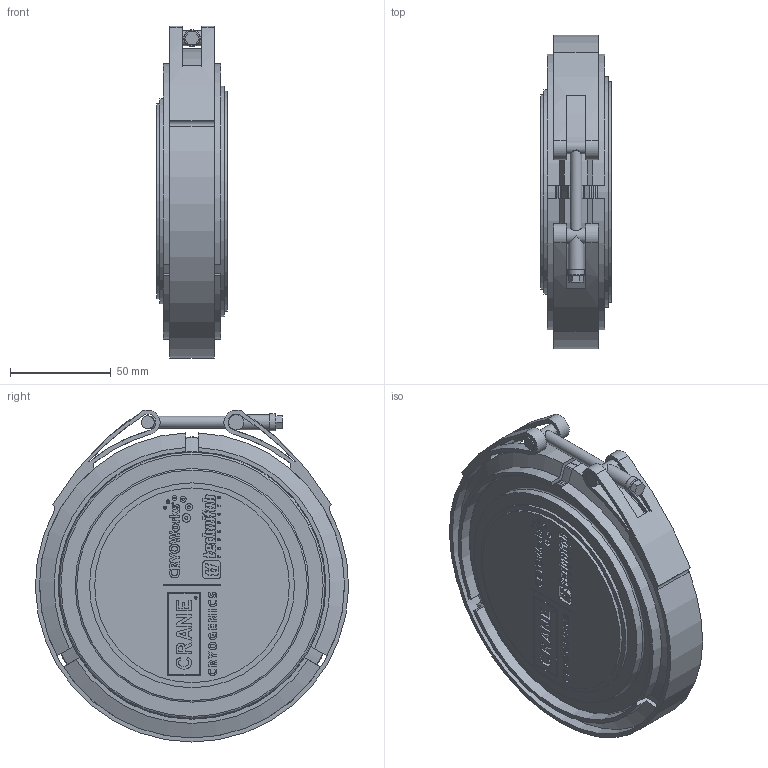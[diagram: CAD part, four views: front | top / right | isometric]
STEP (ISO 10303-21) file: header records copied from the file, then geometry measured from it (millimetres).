
FILE_DESCRIPTION (( 'STEP AP203' ), '1' );
FILE_NAME ('2IN T200^PucksSLDASM.STEP', '2026-02-03T18:08:27', ( '' ), ( '' ), 'SwSTEP 2.0', 'SolidWorks 2023', '' );
FILE_SCHEMA (( 'CONFIG_CONTROL_DESIGN' ));
Length unit declared in the file: inch
Products named in the file (4): Copy of M 4in NPS^2IN T200_PucksSLDASM; 2IN T200^PucksSLDASM; Copy of F 3.5 NPS STD^2IN T200_PucksSLDASM; T200 CLAMP
Assembly tree (3 placements, depth 2):
  2IN T200^PucksSLDASM
    Copy of F 3.5 NPS STD^2IN T200_PucksSLDASM
    Copy of M 4in NPS^2IN T200_PucksSLDASM
    T200 CLAMP
Bounding box: 34.8 x 155.29 x 164.58 mm (x, y, z)
Volume: 510771.5 mm3; surface area: 139941.1 mm2
Topology: 4 solids, 4 shells, 1263 faces, 3244 edges, 2159 vertices
Faces by surface type: plane 946, cylinder 187, bspline 106, cone 14, torus 10
Full cylindrical faces by diameter (mm): 0.586 x1, 0.641 x1, 0.672 x1, 0.697 x1, 0.736 x1, 0.799 x1, 0.8 x1, 0.902 x1, 0.918 x1, 1.036 x1, 1.163 x1, 1.204 x1, 1.335 x1, 1.336 x1, 1.382 x1, 1.424 x1, 1.492 x1, 1.534 x1, 1.572 x1, 1.635 x1, 1.713 x1, 1.793 x1, 1.804 x1, 2.058 x1, 2.421 x1, 2.78 x1, 2.991 x1, 3.434 x1, 3.619 x1, 4.155 x1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
Entity records: 44120 total; most frequent: CARTESIAN_POINT 13619, ORIENTED_EDGE 6322, DIRECTION 5650, EDGE_CURVE 3161, VECTOR 2518, LINE 2518, VERTEX_POINT 2151, AXIS2_PLACEMENT_3D 1566
